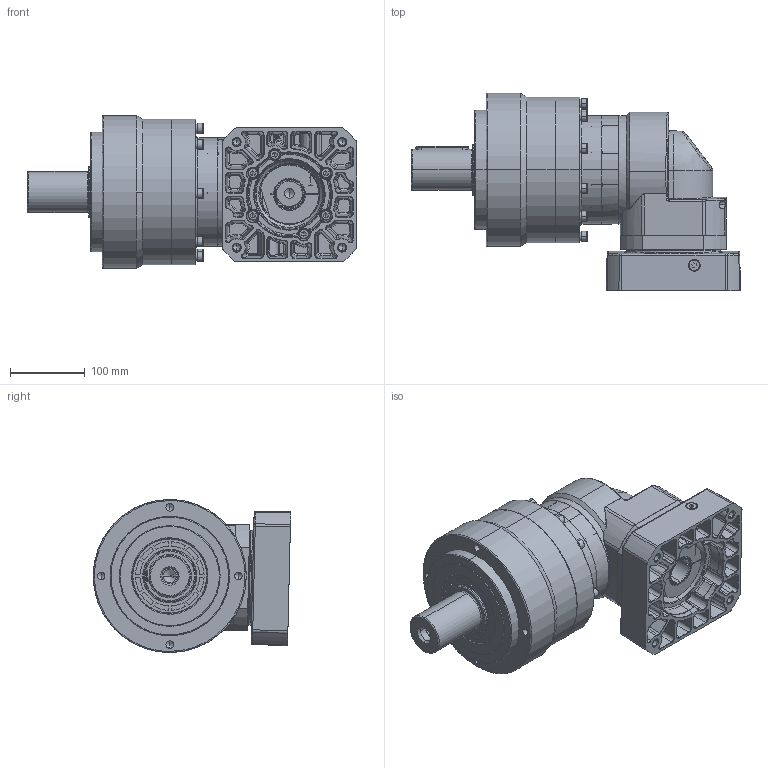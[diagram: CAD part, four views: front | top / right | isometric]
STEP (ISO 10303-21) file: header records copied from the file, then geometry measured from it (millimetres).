
FILE_DESCRIPTION (( 'STEP AP214' ), '1' );
FILE_NAME ('VRL205-L2-S2-P1 35-114.3-200-M12-82.STEP', '2025-02-14T09:20:48', ( '微软用户' ), ( '微软中国' ), 'SwSTEP 2.0', 'SolidWorks 2021', '' );
FILE_SCHEMA (( 'AUTOMOTIVE_DESIGN' ));
Length unit declared in the file: millimetre
Products named in the file (4): 20-EVT140F_________stp.stp.STEP; EVT140D-L1-2-110-145-M8-72.STEP; VRL205-L2-S2-P1 35-114.3-200-M12-82; VRL205D-L2-S2-35-114.3-200-M12-82.STEP
Assembly tree (9 placements, depth 2):
  VRL205-L2-S2-P1 35-114.3-200-M12-82
    VRL205D-L2-S2-35-114.3-200-M12-82.STEP
    20-EVT140F_________stp.stp.STEP
    EVT140D-L1-2-110-145-M8-72.STEP  x7
Bounding box: 441 x 264.59 x 205 mm (x, y, z)
Volume: 1098420.2 mm3; surface area: 850436.3 mm2
Topology: 1 solids, 70 shells, 2645 faces, 6360 edges, 3897 vertices
Faces by surface type: cylinder 769, plane 734, bspline 733, cone 392, torus 17
Entity records: 160668 total; most frequent: CARTESIAN_POINT 108776, ORIENTED_EDGE 11576, DIRECTION 9150, EDGE_CURVE 5884, VERTEX_POINT 3663, AXIS2_PLACEMENT_3D 3608, EDGE_LOOP 2764, ADVANCED_FACE 2495
